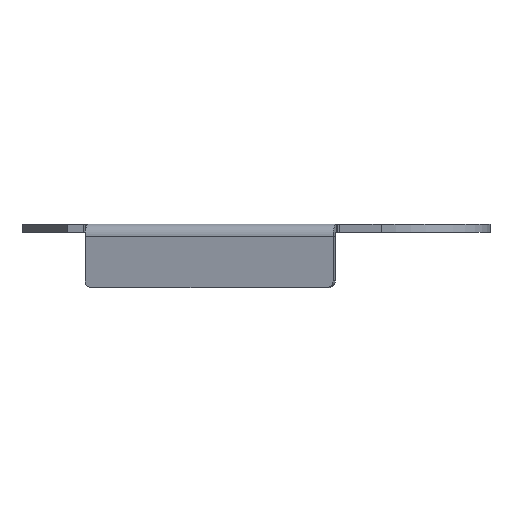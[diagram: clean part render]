
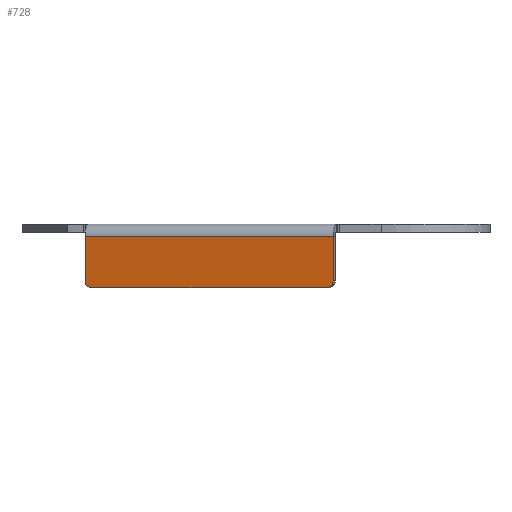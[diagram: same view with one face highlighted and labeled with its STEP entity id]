
A CAD part, front view. The second image highlights one B-rep face of the part: STEP entity #728.
In plain terms, the highlighted planar face has unit normal (-0.258, -0.966, 0).
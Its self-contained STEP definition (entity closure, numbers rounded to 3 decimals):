
#428 = DIRECTION ( 'NONE',  ( 0.966, -0.258, 0. ) ) ;
#430 = DIRECTION ( 'NONE',  ( 0.258, 0.966, 0. ) ) ;
#431 = CARTESIAN_POINT ( 'NONE',  ( 309.324, -43.099, -35. ) ) ;
#437 = DIRECTION ( 'NONE',  ( 0.966, -0.258, 0. ) ) ;
#439 = DIRECTION ( 'NONE',  ( 0.258, 0.966, 0. ) ) ;
#442 = CARTESIAN_POINT ( 'NONE',  ( 140.253, 2.067, -35. ) ) ;
#448 = CARTESIAN_POINT ( 'NONE',  ( 135.423, 3.358, -40. ) ) ;
#458 = DIRECTION ( 'NONE',  ( -0.966, 0.258, 0. ) ) ;
#459 = DIRECTION ( 'NONE',  ( 0., 0., 1. ) ) ;
#465 = DIRECTION ( 'NONE',  ( 0., 0., -1. ) ) ;
#470 = CARTESIAN_POINT ( 'NONE',  ( 314.155, -44.39, -40. ) ) ;
#478 = CARTESIAN_POINT ( 'NONE',  ( 135.423, 3.358, 0. ) ) ;
#480 = DIRECTION ( 'NONE',  ( -0.966, 0.258, 0. ) ) ;
#493 = CARTESIAN_POINT ( 'NONE',  ( 177.868, -7.981, -3. ) ) ;
#574 = EDGE_LOOP ( 'NONE', ( #2453, #2511, #2481, #2469, #2443, #2447 ) ) ;
#728 = ADVANCED_FACE ( 'NONE', ( #924 ), #1730, .F. ) ;
#924 = FACE_OUTER_BOUND ( 'NONE', #574, .T. ) ;
#1112 = AXIS2_PLACEMENT_3D ( 'NONE', #442, #439, #437 ) ;
#1113 = AXIS2_PLACEMENT_3D ( 'NONE', #431, #430, #428 ) ;
#1539 = EDGE_CURVE ( 'NONE', #3238, #3265, #3784, .T. ) ;
#1542 = EDGE_CURVE ( 'NONE', #3238, #3242, #3796, .T. ) ;
#1544 = EDGE_CURVE ( 'NONE', #3247, #3265, #3794, .T. ) ;
#1547 = EDGE_CURVE ( 'NONE', #3245, #3247, #3802, .T. ) ;
#1548 = EDGE_CURVE ( 'NONE', #3264, #3245, #3808, .T. ) ;
#1549 = EDGE_CURVE ( 'NONE', #3242, #3264, #3806, .T. ) ;
#1730 = PLANE ( 'NONE',  #2386 ) ;
#1732 = DIRECTION ( 'NONE',  ( 0.258, 0.966, 0. ) ) ;
#1752 = DIRECTION ( 'NONE',  ( 0.966, -0.258, 0. ) ) ;
#1779 = CARTESIAN_POINT ( 'NONE',  ( 177.868, -7.981, 0. ) ) ;
#2386 = AXIS2_PLACEMENT_3D ( 'NONE', #1779, #1732, #1752 ) ;
#2443 = ORIENTED_EDGE ( 'NONE', *, *, #1548, .F. ) ;
#2447 = ORIENTED_EDGE ( 'NONE', *, *, #1549, .F. ) ;
#2453 = ORIENTED_EDGE ( 'NONE', *, *, #1542, .F. ) ;
#2469 = ORIENTED_EDGE ( 'NONE', *, *, #1547, .F. ) ;
#2481 = ORIENTED_EDGE ( 'NONE', *, *, #1544, .F. ) ;
#2511 = ORIENTED_EDGE ( 'NONE', *, *, #1539, .T. ) ;
#3066 = CARTESIAN_POINT ( 'NONE',  ( 135.423, 3.358, -35. ) ) ;
#3148 = CARTESIAN_POINT ( 'NONE',  ( 135.423, 3.358, -3. ) ) ;
#3151 = CARTESIAN_POINT ( 'NONE',  ( 309.324, -43.099, -40. ) ) ;
#3152 = CARTESIAN_POINT ( 'NONE',  ( 314.155, -44.39, -35. ) ) ;
#3156 = CARTESIAN_POINT ( 'NONE',  ( 314.155, -44.39, -3. ) ) ;
#3158 = CARTESIAN_POINT ( 'NONE',  ( 140.253, 2.067, -40. ) ) ;
#3238 = VERTEX_POINT ( 'NONE', #3156 ) ;
#3242 = VERTEX_POINT ( 'NONE', #3152 ) ;
#3245 = VERTEX_POINT ( 'NONE', #3158 ) ;
#3247 = VERTEX_POINT ( 'NONE', #3066 ) ;
#3264 = VERTEX_POINT ( 'NONE', #3151 ) ;
#3265 = VERTEX_POINT ( 'NONE', #3148 ) ;
#3784 = LINE ( 'NONE', #493, #3793 ) ;
#3793 = VECTOR ( 'NONE', #480, 1000. ) ;
#3794 = LINE ( 'NONE', #478, #3803 ) ;
#3796 = LINE ( 'NONE', #470, #3799 ) ;
#3799 = VECTOR ( 'NONE', #465, 1000. ) ;
#3802 = CIRCLE ( 'NONE', #1112, 5. ) ;
#3803 = VECTOR ( 'NONE', #459, 1000. ) ;
#3806 = CIRCLE ( 'NONE', #1113, 5. ) ;
#3808 = LINE ( 'NONE', #448, #3810 ) ;
#3810 = VECTOR ( 'NONE', #458, 1000. ) ;
